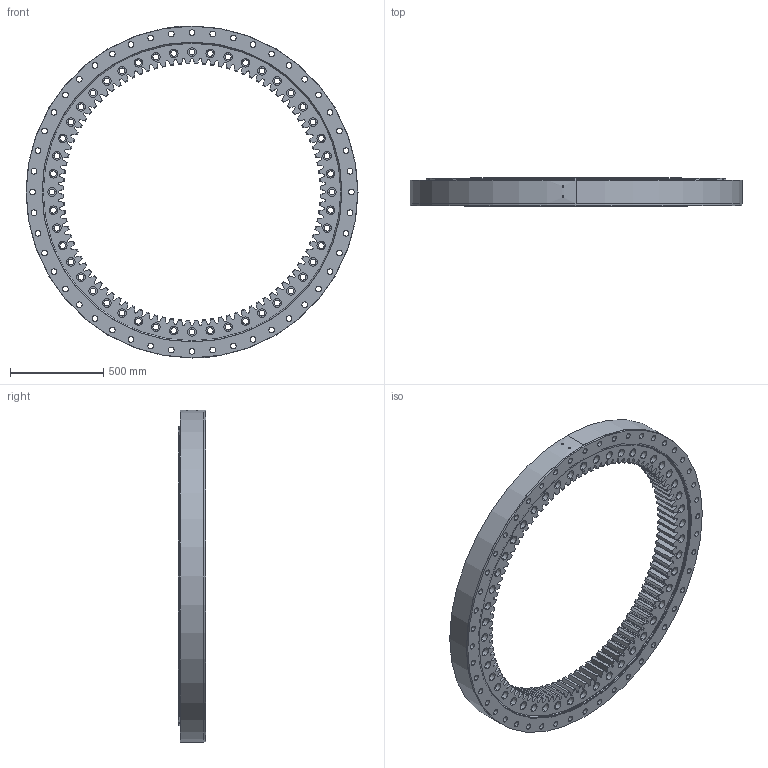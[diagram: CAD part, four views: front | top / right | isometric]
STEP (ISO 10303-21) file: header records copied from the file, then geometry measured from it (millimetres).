
FILE_DESCRIPTION (( 'STEP AP214' ), '1' );
FILE_NAME ('B2240-1-1780BB.STEP', '2022-11-24T07:10:05', ( '' ), ( '' ), 'SwSTEP 2.0', 'SolidWorks 2020', '' );
FILE_SCHEMA (( 'AUTOMOTIVE_DESIGN' ));
Length unit declared in the file: millimetre
Products named in the file (1): B2240-1-1780BB
Bounding box: 1780 x 148 x 1780 mm (x, y, z)
Volume: 113701697.9 mm3; surface area: 6830794.2 mm2
Topology: 4 solids, 4 shells, 1244 faces, 3386 edges, 2256 vertices
Faces by surface type: cylinder 522, plane 514, cone 208
Entity records: 41003 total; most frequent: CARTESIAN_POINT 8607, ORIENTED_EDGE 6772, DIRECTION 6700, EDGE_CURVE 3386, AXIS2_PLACEMENT_3D 2485, VERTEX_POINT 2256, LINE 1730, VECTOR 1730
